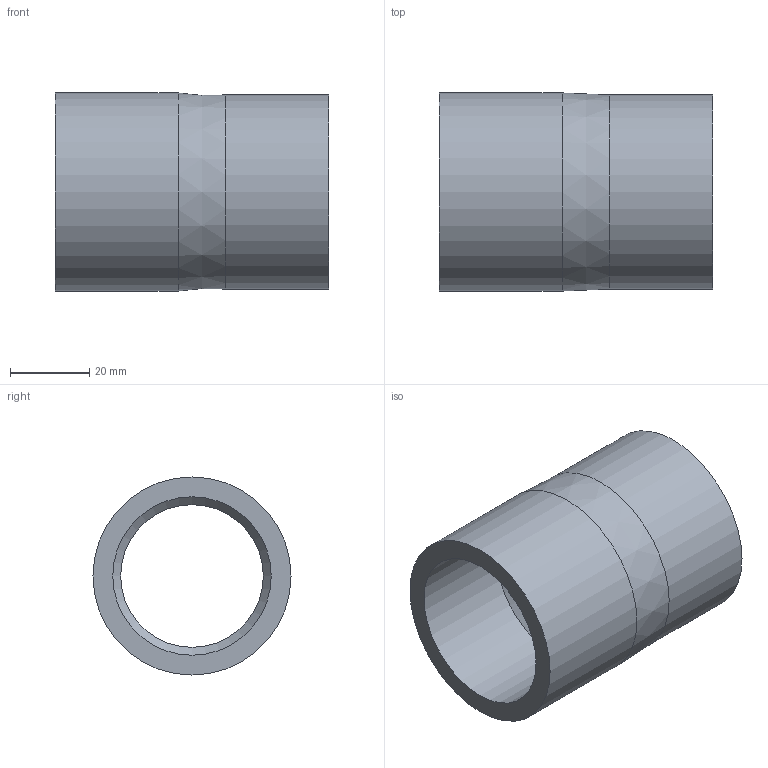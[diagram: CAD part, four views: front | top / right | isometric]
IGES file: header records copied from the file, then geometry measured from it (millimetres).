
Global section: file name: 050200050040.ipt; native system: Autodesk Inventor 2015; preprocessor: unknown; author: KIM; date: 20171207.164203; units: millimetre
Bounding box: 69 x 50 x 50 mm (x, y, z)
Volume: 50107.9 mm3; surface area: 20882.9 mm2
Topology: 1 solids, 1 shells, 10 faces, 23 edges, 16 vertices
Faces by surface type: revolution 4, plane 3, cylinder 2, cone 1
Full cylindrical faces by diameter (mm): 49 x1, 50 x1
